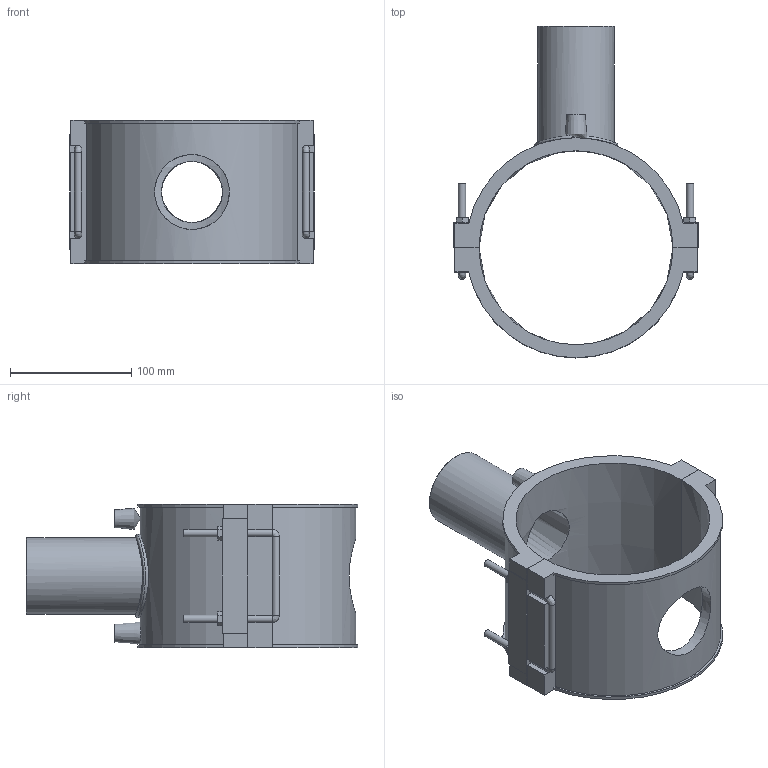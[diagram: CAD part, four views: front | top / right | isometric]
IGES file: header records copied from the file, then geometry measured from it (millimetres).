
Global section: file name: 495804160063.ipt; native system: Autodesk Inventor 2015; preprocessor: unknown; author: KIM; date: 20180426.120852; units: millimetre
Bounding box: 202 x 273.78 x 118 mm (x, y, z)
Volume: 763754.4 mm3; surface area: 193339.8 mm2
Topology: 2 solids, 2 shells, 129 faces, 328 edges, 206 vertices
Faces by surface type: plane 85, cylinder 22, bspline 9, cone 7, revolution 6
Full cylindrical faces by diameter (mm): 4 x2, 6 x10, 63 x1, 69.3 x1
